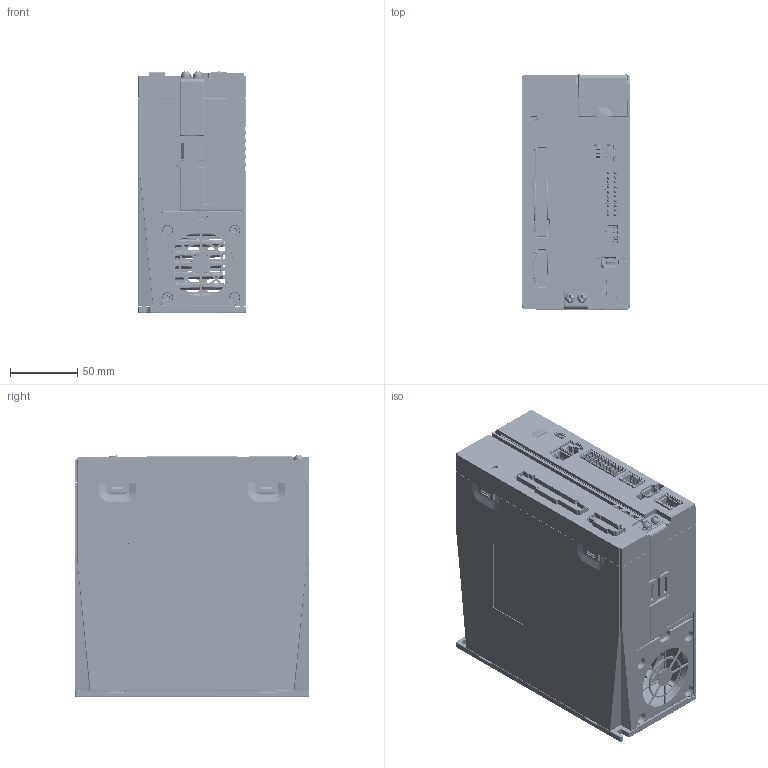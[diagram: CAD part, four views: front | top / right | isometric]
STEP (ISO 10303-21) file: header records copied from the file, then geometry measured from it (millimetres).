
FILE_DESCRIPTION((''),'2;1');
FILE_NAME('L8-3000__ASM','2021-08-11T',('sunjun'),(''),'PRO/ENGINEER BY PARAMETRIC TECHNOLOGY CORPORATION, 2008090','PRO/ENGINEER BY PARAMETRIC TECHNOLOGY CORPORATION, 2008090','');
FILE_SCHEMA(('CONFIG_CONTROL_DESIGN'));
Length unit declared in the file: millimetre
Products named in the file (23): MANIFOLD_SOLID_BREP_1428; MANIFOLD_SOLID_BREP_2856; MANIFOLD_SOLID_BREP_4284; MANIFOLD_SOLID_BREP_5712; MANIFOLD_SOLID_BREP_16727; MANIFOLD_SOLID_BREP_17064; MANIFOLD_SOLID_BREP_17434; MANIFOLD_SOLID_BREP_17803; MANIFOLD_SOLID_BREP_18169; MANIFOLD_SOLID_BREP_18539; MANIFOLD_SOLID_BREP_18909; MANIFOLD_SOLID_BREP_19487; MANIFOLD_SOLID_BREP_25871; MANIFOLD_SOLID_BREP_26021; MANIFOLD_SOLID_BREP_26171; MANIFOLD_SOLID_BREP_26541; MANIFOLD_SOLID_BREP_26908; MANIFOLD_SOLID_BREP_27277; MANIFOLD_SOLID_BREP_27646; MANIFOLD_SOLID_BREP_37951; _ASM_L7_2000_ASM_19_ASM_17_ASM_; ASM_L7_2000_ASM_19_ASM_17_ASM_A_ASM; L8-3000__ASM
Assembly tree (22 placements, depth 3):
  L8-3000__ASM
    ASM_L7_2000_ASM_19_ASM_17_ASM_A_ASM
      MANIFOLD_SOLID_BREP_1428
      MANIFOLD_SOLID_BREP_2856
      MANIFOLD_SOLID_BREP_4284
      MANIFOLD_SOLID_BREP_5712
      MANIFOLD_SOLID_BREP_16727
      MANIFOLD_SOLID_BREP_17064
      MANIFOLD_SOLID_BREP_17434
      MANIFOLD_SOLID_BREP_17803
      MANIFOLD_SOLID_BREP_18169
      MANIFOLD_SOLID_BREP_18539
      MANIFOLD_SOLID_BREP_18909
      MANIFOLD_SOLID_BREP_19487
      MANIFOLD_SOLID_BREP_25871
      MANIFOLD_SOLID_BREP_26021
      MANIFOLD_SOLID_BREP_26171
      MANIFOLD_SOLID_BREP_26541
      MANIFOLD_SOLID_BREP_26908
      MANIFOLD_SOLID_BREP_27277
      MANIFOLD_SOLID_BREP_27646
      MANIFOLD_SOLID_BREP_37951
      _ASM_L7_2000_ASM_19_ASM_17_ASM_
Bounding box: 80 x 175.06 x 180.53 mm (x, y, z)
Volume: 630839 mm3; surface area: 625054.5 mm2
Topology: 20 solids, 758 shells, 16516 faces, 48703 edges, 32455 vertices
Faces by surface type: plane 10203, cylinder 3822, cone 964, bspline 706, torus 462, sphere 282, extrusion 77
Entity records: 604172 total; most frequent: CARTESIAN_POINT 182323, ORIENTED_EDGE 87509, DIRECTION 80108, EDGE_CURVE 48180, VECTOR 33594, LINE 33517, VERTEX_POINT 32457, AXIS2_PLACEMENT_3D 23257
